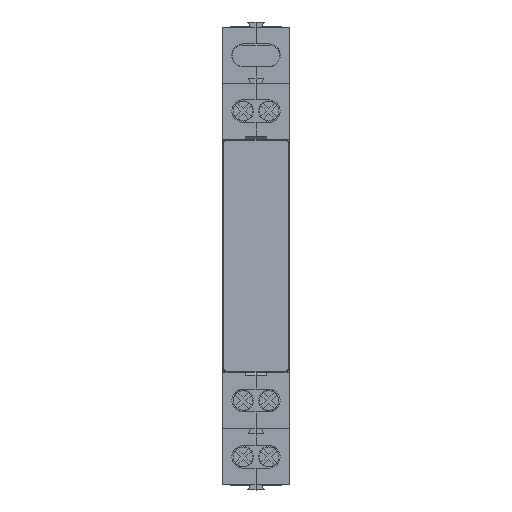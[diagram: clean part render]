
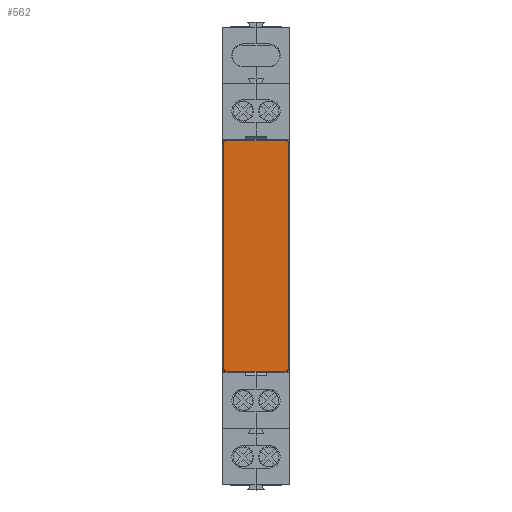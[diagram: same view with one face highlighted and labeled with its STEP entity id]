
A CAD part, top view. The second image highlights one B-rep face of the part: STEP entity #562.
In plain terms, the highlighted planar face has unit normal (0, 0, 1).
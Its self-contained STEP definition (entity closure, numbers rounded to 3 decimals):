
#115 = CARTESIAN_POINT ( 'NONE',  ( -6.359, 22.351, 36.459 ) ) ;
#189 = ORIENTED_EDGE ( 'NONE', *, *, #848, .T. ) ;
#529 = VERTEX_POINT ( 'NONE', #8534 ) ;
#562 = ADVANCED_FACE ( 'NONE', ( #2321 ), #7177, .F. ) ;
#595 = CARTESIAN_POINT ( 'NONE',  ( -6.359, -22., 36.459 ) ) ;
#792 = DIRECTION ( 'NONE',  ( 0., 1., 0. ) ) ;
#848 = EDGE_CURVE ( 'NONE', #4879, #10948, #11913, .T. ) ;
#1200 = CARTESIAN_POINT ( 'NONE',  ( -6.11, 22.6, 36.459 ) ) ;
#1455 = LINE ( 'NONE', #6242, #7267 ) ;
#1842 = CARTESIAN_POINT ( 'NONE',  ( -6.11, -22.6, 36.459 ) ) ;
#1939 = ORIENTED_EDGE ( 'NONE', *, *, #4056, .F. ) ;
#1945 = CARTESIAN_POINT ( 'NONE',  ( 6.359, -22., 36.459 ) ) ;
#2186 = ORIENTED_EDGE ( 'NONE', *, *, #8843, .T. ) ;
#2242 = EDGE_CURVE ( 'NONE', #10948, #3665, #9088, .T. ) ;
#2321 = FACE_OUTER_BOUND ( 'NONE', #5821, .T. ) ;
#2362 = EDGE_CURVE ( 'NONE', #4879, #529, #1455, .T. ) ;
#2668 = CARTESIAN_POINT ( 'NONE',  ( 6.359, 22., 36.459 ) ) ;
#2832 = DIRECTION ( 'NONE',  ( 0., -1., 0. ) ) ;
#3239 =( BOUNDED_CURVE ( )  B_SPLINE_CURVE ( 3, ( #12826, #1200, #115, #8201 ),
 .UNSPECIFIED., .F., .F. ) 
 B_SPLINE_CURVE_WITH_KNOTS ( ( 4, 4 ),
 ( 5.328, 6.899 ),
 .UNSPECIFIED. ) 
 CURVE ( )  GEOMETRIC_REPRESENTATION_ITEM ( )  RATIONAL_B_SPLINE_CURVE ( ( 1., 0.805, 0.805, 1. ) ) 
 REPRESENTATION_ITEM ( '' )  );
#3665 = VERTEX_POINT ( 'NONE', #6998 ) ;
#4056 = EDGE_CURVE ( 'NONE', #6929, #8018, #8728, .T. ) ;
#4879 = VERTEX_POINT ( 'NONE', #2668 ) ;
#4911 =( BOUNDED_CURVE ( )  B_SPLINE_CURVE ( 3, ( #6573, #13523, #8889, #1945 ),
 .UNSPECIFIED., .F., .F. ) 
 B_SPLINE_CURVE_WITH_KNOTS ( ( 4, 4 ),
 ( 2.186, 3.757 ),
 .UNSPECIFIED. ) 
 CURVE ( )  GEOMETRIC_REPRESENTATION_ITEM ( )  RATIONAL_B_SPLINE_CURVE ( ( 1., 0.805, 0.805, 1. ) ) 
 REPRESENTATION_ITEM ( '' )  );
#5451 = CARTESIAN_POINT ( 'NONE',  ( 5.759, 22.6, 36.459 ) ) ;
#5821 = EDGE_LOOP ( 'NONE', ( #1939, #7568, #13103, #189, #11285, #11026, #6034, #2186 ) ) ;
#6033 = VECTOR ( 'NONE', #7847, 1000. ) ;
#6034 = ORIENTED_EDGE ( 'NONE', *, *, #7574, .T. ) ;
#6242 = CARTESIAN_POINT ( 'NONE',  ( 6.359, -22.7, 36.459 ) ) ;
#6399 = CARTESIAN_POINT ( 'NONE',  ( 5.759, 22.6, 36.459 ) ) ;
#6426 = EDGE_CURVE ( 'NONE', #6929, #529, #4911, .T. ) ;
#6573 = CARTESIAN_POINT ( 'NONE',  ( 5.759, -22.6, 36.459 ) ) ;
#6813 = CARTESIAN_POINT ( 'NONE',  ( -6.359, -22.7, 36.459 ) ) ;
#6929 = VERTEX_POINT ( 'NONE', #8701 ) ;
#6998 = CARTESIAN_POINT ( 'NONE',  ( -5.759, 22.6, 36.459 ) ) ;
#7177 = PLANE ( 'NONE',  #8180 ) ;
#7267 = VECTOR ( 'NONE', #2832, 1000. ) ;
#7568 = ORIENTED_EDGE ( 'NONE', *, *, #6426, .T. ) ;
#7574 = EDGE_CURVE ( 'NONE', #11643, #14686, #13568, .T. ) ;
#7847 = DIRECTION ( 'NONE',  ( -1., 0., 0. ) ) ;
#7924 = CARTESIAN_POINT ( 'NONE',  ( -6.359, 22., 36.459 ) ) ;
#8006 = CARTESIAN_POINT ( 'NONE',  ( 6.5, -22.6, 36.459 ) ) ;
#8018 = VERTEX_POINT ( 'NONE', #9918 ) ;
#8161 =( BOUNDED_CURVE ( )  B_SPLINE_CURVE ( 3, ( #11070, #13420, #1842, #9943 ),
 .UNSPECIFIED., .F., .F. ) 
 B_SPLINE_CURVE_WITH_KNOTS ( ( 4, 4 ),
 ( 2.526, 4.097 ),
 .UNSPECIFIED. ) 
 CURVE ( )  GEOMETRIC_REPRESENTATION_ITEM ( )  RATIONAL_B_SPLINE_CURVE ( ( 1., 0.805, 0.805, 1. ) ) 
 REPRESENTATION_ITEM ( '' )  );
#8180 = AXIS2_PLACEMENT_3D ( 'NONE', #8006, #11428, #792 ) ;
#8201 = CARTESIAN_POINT ( 'NONE',  ( -6.359, 22., 36.459 ) ) ;
#8534 = CARTESIAN_POINT ( 'NONE',  ( 6.359, -22., 36.459 ) ) ;
#8701 = CARTESIAN_POINT ( 'NONE',  ( 5.759, -22.6, 36.459 ) ) ;
#8728 = LINE ( 'NONE', #14811, #6033 ) ;
#8843 = EDGE_CURVE ( 'NONE', #14686, #8018, #8161, .T. ) ;
#8889 = CARTESIAN_POINT ( 'NONE',  ( 6.359, -22.351, 36.459 ) ) ;
#9088 = LINE ( 'NONE', #12638, #14906 ) ;
#9918 = CARTESIAN_POINT ( 'NONE',  ( -5.759, -22.6, 36.459 ) ) ;
#9943 = CARTESIAN_POINT ( 'NONE',  ( -5.759, -22.6, 36.459 ) ) ;
#10948 = VERTEX_POINT ( 'NONE', #5451 ) ;
#11001 = CARTESIAN_POINT ( 'NONE',  ( 6.359, 22., 36.459 ) ) ;
#11026 = ORIENTED_EDGE ( 'NONE', *, *, #14421, .T. ) ;
#11047 = CARTESIAN_POINT ( 'NONE',  ( 6.11, 22.6, 36.459 ) ) ;
#11070 = CARTESIAN_POINT ( 'NONE',  ( -6.359, -22., 36.459 ) ) ;
#11285 = ORIENTED_EDGE ( 'NONE', *, *, #2242, .T. ) ;
#11428 = DIRECTION ( 'NONE',  ( 0., 0., -1. ) ) ;
#11643 = VERTEX_POINT ( 'NONE', #7924 ) ;
#11913 =( BOUNDED_CURVE ( )  B_SPLINE_CURVE ( 3, ( #11001, #14555, #11047, #6399 ),
 .UNSPECIFIED., .F., .F. ) 
 B_SPLINE_CURVE_WITH_KNOTS ( ( 4, 4 ),
 ( 5.668, 7.238 ),
 .UNSPECIFIED. ) 
 CURVE ( )  GEOMETRIC_REPRESENTATION_ITEM ( )  RATIONAL_B_SPLINE_CURVE ( ( 1., 0.805, 0.805, 1. ) ) 
 REPRESENTATION_ITEM ( '' )  );
#12241 = DIRECTION ( 'NONE',  ( -1., 0., 0. ) ) ;
#12638 = CARTESIAN_POINT ( 'NONE',  ( 6.5, 22.6, 36.459 ) ) ;
#12826 = CARTESIAN_POINT ( 'NONE',  ( -5.759, 22.6, 36.459 ) ) ;
#13103 = ORIENTED_EDGE ( 'NONE', *, *, #2362, .F. ) ;
#13204 = VECTOR ( 'NONE', #14938, 1000. ) ;
#13420 = CARTESIAN_POINT ( 'NONE',  ( -6.359, -22.351, 36.459 ) ) ;
#13523 = CARTESIAN_POINT ( 'NONE',  ( 6.11, -22.6, 36.459 ) ) ;
#13568 = LINE ( 'NONE', #6813, #13204 ) ;
#14421 = EDGE_CURVE ( 'NONE', #3665, #11643, #3239, .T. ) ;
#14555 = CARTESIAN_POINT ( 'NONE',  ( 6.359, 22.351, 36.459 ) ) ;
#14686 = VERTEX_POINT ( 'NONE', #595 ) ;
#14811 = CARTESIAN_POINT ( 'NONE',  ( 6.5, -22.6, 36.459 ) ) ;
#14906 = VECTOR ( 'NONE', #12241, 1000. ) ;
#14938 = DIRECTION ( 'NONE',  ( 0., -1., 0. ) ) ;
